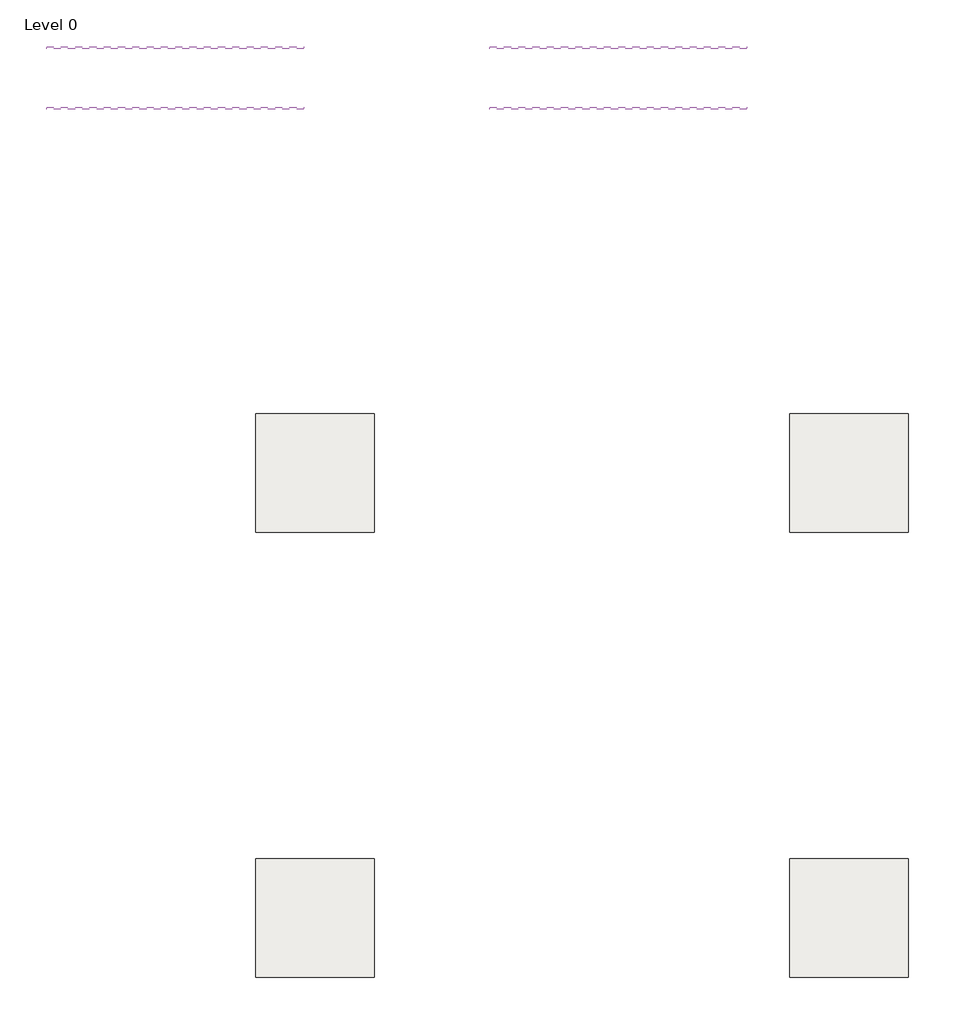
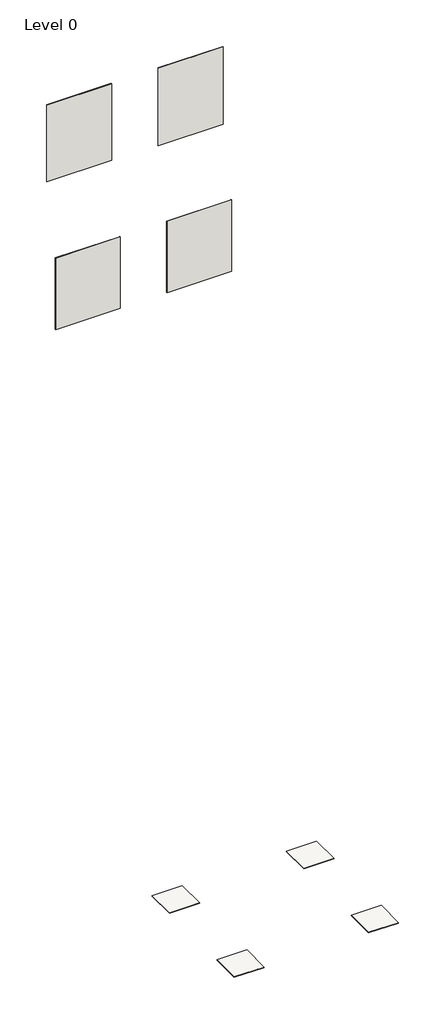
# One storey: 4 slabs, 4 walls.
"""IFC4 building model written with IfcOpenShell, lengths in millimetres."""

from ifc_helpers import new_model, si_unit, frame, origin, place, context, project, spatial, polyline, outline, extrude, element, save

model = new_model("IFC4")

# Units and contexts
model_context = context("Model", 3, world=origin())
ifc_project = project(units=[si_unit("LENGTHUNIT", "METRE", prefix="MILLI")], contexts=[model_context])

# Site, building, storey
site = spatial("IfcSite", under=ifc_project)
building = spatial("IfcBuilding", under=site)
storey = spatial("IfcBuildingStorey", under=building, Name="Level 0", Elevation=0.0)

# Slabs
placement = place(None, origin())
element("IfcSlab", 1, ObjectType="Floor_Tiles_Refin-Frame-Carpet-60x60 LD82", at=placement, inside=storey, context=model_context, shape_type="SweptSolid", body=[
    extrude(outline(polyline([(7574.3752062, 6288.4192064), (7574.3752062, 5688.4192064), (6974.3752062, 5688.4192064), (6974.3752062, 6288.4192064), (7574.3752062, 6288.4192064)])), frame((0.0, 0.0, -10.0), z_axis=(0.0, 0.0, 1.0), x_axis=(1.0, 0.0, 0.0)), (0.0, 0.0, 1.0), 10.0),
])
element("IfcSlab", 2, ObjectType="Floor_Tiles_Refin-Frame-Flower-60x60 LM22", at=placement, inside=storey, context=model_context, shape_type="SweptSolid", body=[
    extrude(outline(polyline([(10274.3752062, 6288.4192064), (10274.3752062, 5688.4192064), (9674.3752062, 5688.4192064), (9674.3752062, 6288.4192064), (10274.3752062, 6288.4192064)])), frame((0.0, 0.0, -10.0), z_axis=(0.0, 0.0, 1.0), x_axis=(1.0, 0.0, 0.0)), (0.0, 0.0, 1.0), 10.0),
])
element("IfcSlab", 3, ObjectType="Floor_Tiles_Refin-Frame-Geometric-60x60 LD84", at=placement, inside=storey, context=model_context, shape_type="SweptSolid", body=[
    extrude(outline(polyline([(7574.3752062, 4038.4192064), (7574.3752062, 3438.4192064), (6974.3752062, 3438.4192064), (6974.3752062, 4038.4192064), (7574.3752062, 4038.4192064)])), frame((0.0, 0.0, -10.0), z_axis=(0.0, 0.0, 1.0), x_axis=(1.0, 0.0, 0.0)), (0.0, 0.0, 1.0), 10.0),
])
element("IfcSlab", 4, ObjectType="Floor_Tiles_Refin-Frame-Majolica-60x60 LD85", at=placement, inside=storey, context=model_context, shape_type="SweptSolid", body=[
    extrude(outline(polyline([(10274.3752062, 4038.4192064), (10274.3752062, 3438.4192064), (9674.3752062, 3438.4192064), (9674.3752062, 4038.4192064), (10274.3752062, 4038.4192064)])), frame((0.0, 0.0, -10.0), z_axis=(0.0, 0.0, 1.0), x_axis=(1.0, 0.0, 0.0)), (0.0, 0.0, 1.0), 10.0),
])

# Walls
element("IfcWall", 5, ObjectType="Wall_Tiles_Refin-Frame-Flower-60x60 LM22", at=placement, inside=storey, context=model_context, shape_type="SweptSolid", body=[
    extrude(outline(polyline([(9457.3752062, 8132.3838631), (8157.3752062, 8132.3838631), (8157.3752062, 8142.3838631), (9457.3752062, 8142.3838631), (9457.3752062, 8132.3838631)])), frame((0.0, 0.0, 14387.6770443), z_axis=(0.0, 0.0, 1.0), x_axis=(1.0, 0.0, 0.0)), (0.0, 0.0, 1.0), 1641.7417352),
])
element("IfcWall", 6, ObjectType="Wall_Tiles_Refin-Frame-Carpet-60x60 LD82", at=placement, inside=storey, context=model_context, shape_type="SweptSolid", body=[
    extrude(outline(polyline([(7217.3752062, 8132.3838631), (5917.3752062, 8132.3838631), (5917.3752062, 8142.3838631), (7217.3752062, 8142.3838631), (7217.3752062, 8132.3838631)])), frame((0.0, 0.0, 14403.7267346), z_axis=(0.0, 0.0, 1.0), x_axis=(1.0, 0.0, 0.0)), (0.0, 0.0, 1.0), 1625.692045),
])
element("IfcWall", 7, ObjectType="Wall_Tiles_Refin-Frame-Geometric-60x60 LD84", at=placement, inside=storey, context=model_context, shape_type="SweptSolid", body=[
    extrude(outline(polyline([(7217.3752062, 7827.3838631), (5917.3752062, 7827.3838631), (5917.3752062, 7837.3838631), (7217.3752062, 7837.3838631), (7217.3752062, 7827.3838631)])), frame((0.0, 0.0, 11452.5436262), z_axis=(0.0, 0.0, 1.0), x_axis=(1.0, 0.0, 0.0)), (0.0, 0.0, 1.0), 1513.1985566),
])
element("IfcWall", 8, ObjectType="Wall_Tiles_Refin-Frame-Majolica-60x60 LD85", at=placement, inside=storey, context=model_context, shape_type="SweptSolid", body=[
    extrude(outline(polyline([(9457.3752062, 7827.3838631), (8157.3752062, 7827.3838631), (8157.3752062, 7837.3838631), (9457.3752062, 7837.3838631), (9457.3752062, 7827.3838631)])), frame((0.0, 0.0, 11452.5436262), z_axis=(0.0, 0.0, 1.0), x_axis=(1.0, 0.0, 0.0)), (0.0, 0.0, 1.0), 1513.1985566),
])

save(model, "model.ifc")
